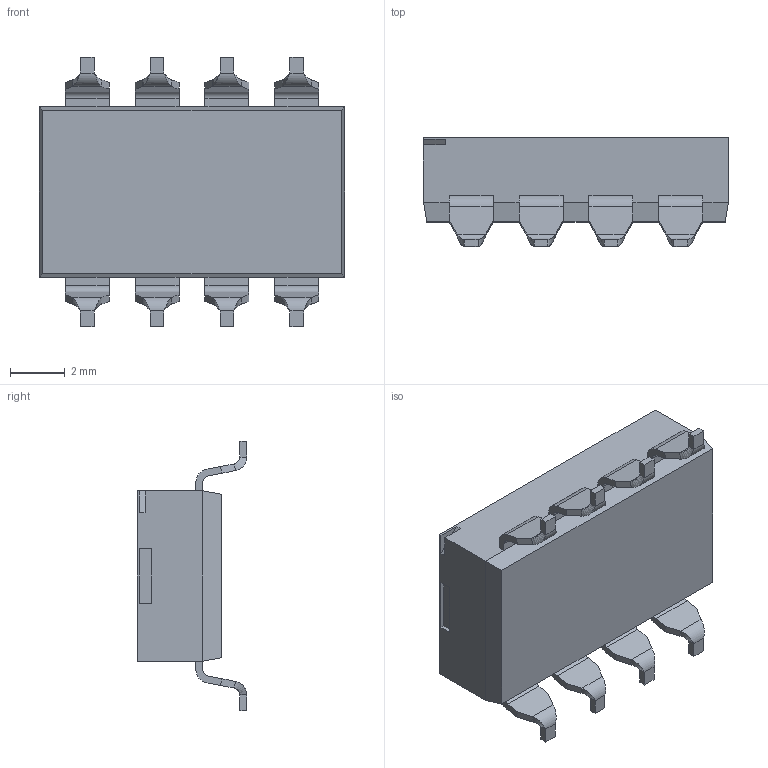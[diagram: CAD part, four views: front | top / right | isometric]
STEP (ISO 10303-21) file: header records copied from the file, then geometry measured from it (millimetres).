
FILE_DESCRIPTION (( 'STEP AP203' ), '1' );
FILE_NAME ('1.STEP', '2015-09-03T10:15:36', ( 'dip' ), ( 'dip' ), 'SwSTEP 2.0', 'SolidWorks 2008', '' );
FILE_SCHEMA (( 'CONFIG_CONTROL_DESIGN' ));
Length unit declared in the file: millimetre
Products named in the file (1): 1
Bounding box: 11.1 x 3.98 x 9.8 mm (x, y, z)
Volume: 208.1 mm3; surface area: 386.4 mm2
Topology: 1 solids, 14 shells, 368 faces, 933 edges, 594 vertices
Faces by surface type: plane 261, bspline 63, cylinder 44
Entity records: 13714 total; most frequent: CARTESIAN_POINT 5187, ORIENTED_EDGE 1866, DIRECTION 1475, EDGE_CURVE 933, LINE 751, VECTOR 751, VERTEX_POINT 594, EDGE_LOOP 385
